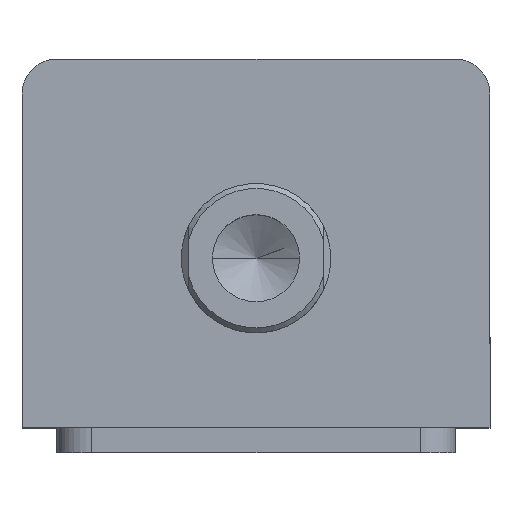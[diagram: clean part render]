
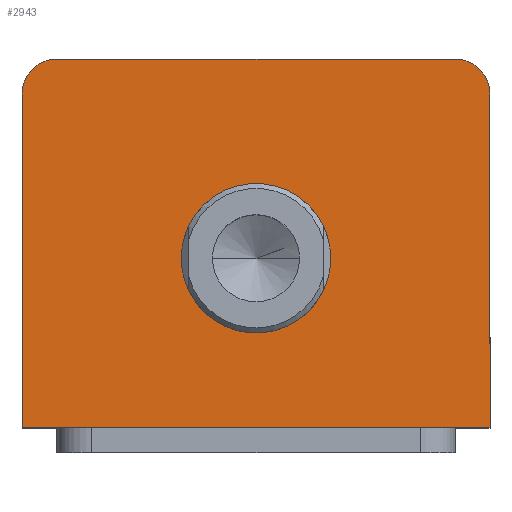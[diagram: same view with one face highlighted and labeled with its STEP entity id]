
A CAD part, top view. The second image highlights one B-rep face of the part: STEP entity #2943.
In plain terms, the highlighted planar face has unit normal (0, 0, 1).
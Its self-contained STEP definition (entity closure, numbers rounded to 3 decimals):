
#11 = VERTEX_POINT ( 'NONE', #1632 ) ;
#143 = ORIENTED_EDGE ( 'NONE', *, *, #1864, .F. ) ;
#189 = ORIENTED_EDGE ( 'NONE', *, *, #2648, .T. ) ;
#190 = ORIENTED_EDGE ( 'NONE', *, *, #1941, .T. ) ;
#191 = ORIENTED_EDGE ( 'NONE', *, *, #2682, .T. ) ;
#192 = ORIENTED_EDGE ( 'NONE', *, *, #1909, .T. ) ;
#194 = ORIENTED_EDGE ( 'NONE', *, *, #1929, .T. ) ;
#375 = VERTEX_POINT ( 'NONE', #1606 ) ;
#382 = VERTEX_POINT ( 'NONE', #1597 ) ;
#444 = EDGE_LOOP ( 'NONE', ( #457, #190, #189, #192, #191, #194 ) ) ;
#447 = EDGE_LOOP ( 'NONE', ( #455, #143 ) ) ;
#455 = ORIENTED_EDGE ( 'NONE', *, *, #2672, .F. ) ;
#457 = ORIENTED_EDGE ( 'NONE', *, *, #1922, .T. ) ;
#816 = VERTEX_POINT ( 'NONE', #1567 ) ;
#837 = VERTEX_POINT ( 'NONE', #1544 ) ;
#1054 = VERTEX_POINT ( 'NONE', #1535 ) ;
#1141 = DIRECTION ( 'NONE',  ( 1., 0., 0. ) ) ;
#1142 = DIRECTION ( 'NONE',  ( 0., 0., 1. ) ) ;
#1143 = CARTESIAN_POINT ( 'NONE',  ( 40., 30., 100. ) ) ;
#1168 = DIRECTION ( 'NONE',  ( -1., 0., 0. ) ) ;
#1169 = CARTESIAN_POINT ( 'NONE',  ( -47., 37., 100. ) ) ;
#1202 = DIRECTION ( 'NONE',  ( 1., 0., 0. ) ) ;
#1212 = CARTESIAN_POINT ( 'NONE',  ( -47., -37., 100. ) ) ;
#1353 = DIRECTION ( 'NONE',  ( 1., 0., 0. ) ) ;
#1354 = DIRECTION ( 'NONE',  ( 0., 0., 1. ) ) ;
#1355 = CARTESIAN_POINT ( 'NONE',  ( 0., -3., 100. ) ) ;
#1535 = CARTESIAN_POINT ( 'NONE',  ( -40., 37., 100. ) ) ;
#1544 = CARTESIAN_POINT ( 'NONE',  ( -47., 30., 100. ) ) ;
#1567 = CARTESIAN_POINT ( 'NONE',  ( 47., -37., 100. ) ) ;
#1597 = CARTESIAN_POINT ( 'NONE',  ( 15., -3., 100. ) ) ;
#1606 = CARTESIAN_POINT ( 'NONE',  ( -47., -37., 100. ) ) ;
#1632 = CARTESIAN_POINT ( 'NONE',  ( 40., 37., 100. ) ) ;
#1649 = CARTESIAN_POINT ( 'NONE',  ( 47., 30., 100. ) ) ;
#1668 = VERTEX_POINT ( 'NONE', #1649 ) ;
#1690 = AXIS2_PLACEMENT_3D ( 'NONE', #2566, #2564, #2562 ) ;
#1698 = AXIS2_PLACEMENT_3D ( 'NONE', #1143, #1142, #1141 ) ;
#1717 = AXIS2_PLACEMENT_3D ( 'NONE', #2546, #2540, #2538 ) ;
#1722 = AXIS2_PLACEMENT_3D ( 'NONE', #2287, #2283, #2282 ) ;
#1754 = AXIS2_PLACEMENT_3D ( 'NONE', #1355, #1354, #1353 ) ;
#1864 = EDGE_CURVE ( 'NONE', #2939, #382, #1988, .T. ) ;
#1909 = EDGE_CURVE ( 'NONE', #375, #816, #2046, .T. ) ;
#1922 = EDGE_CURVE ( 'NONE', #11, #1054, #2074, .T. ) ;
#1929 = EDGE_CURVE ( 'NONE', #1668, #11, #2083, .T. ) ;
#1941 = EDGE_CURVE ( 'NONE', #1054, #837, #2101, .T. ) ;
#1988 = CIRCLE ( 'NONE', #1754, 15. ) ;
#2046 = LINE ( 'NONE', #1212, #2053 ) ;
#2053 = VECTOR ( 'NONE', #1202, 1000. ) ;
#2074 = LINE ( 'NONE', #1169, #2077 ) ;
#2077 = VECTOR ( 'NONE', #1168, 1000. ) ;
#2083 = CIRCLE ( 'NONE', #1698, 7. ) ;
#2101 = CIRCLE ( 'NONE', #1690, 7. ) ;
#2124 = LINE ( 'NONE', #2438, #2127 ) ;
#2127 = VECTOR ( 'NONE', #2437, 1000. ) ;
#2171 = CIRCLE ( 'NONE', #1722, 15. ) ;
#2186 = LINE ( 'NONE', #2604, #2189 ) ;
#2189 = VECTOR ( 'NONE', #2603, 1000. ) ;
#2211 = FACE_BOUND ( 'NONE', #447, .T. ) ;
#2214 = FACE_OUTER_BOUND ( 'NONE', #444, .T. ) ;
#2282 = DIRECTION ( 'NONE',  ( 1., 0., 0. ) ) ;
#2283 = DIRECTION ( 'NONE',  ( 0., 0., 1. ) ) ;
#2287 = CARTESIAN_POINT ( 'NONE',  ( 0., -3., 100. ) ) ;
#2437 = DIRECTION ( 'NONE',  ( 0., -1., 0. ) ) ;
#2438 = CARTESIAN_POINT ( 'NONE',  ( -47., 37., 100. ) ) ;
#2538 = DIRECTION ( 'NONE',  ( 1., 0., 0. ) ) ;
#2540 = DIRECTION ( 'NONE',  ( 0., 0., 1. ) ) ;
#2546 = CARTESIAN_POINT ( 'NONE',  ( 0., 0., 100. ) ) ;
#2547 = PLANE ( 'NONE',  #1717 ) ;
#2562 = DIRECTION ( 'NONE',  ( 1., 0., 0. ) ) ;
#2564 = DIRECTION ( 'NONE',  ( 0., 0., 1. ) ) ;
#2565 = CARTESIAN_POINT ( 'NONE',  ( -15., -3., 100. ) ) ;
#2566 = CARTESIAN_POINT ( 'NONE',  ( -40., 30., 100. ) ) ;
#2603 = DIRECTION ( 'NONE',  ( 0., 1., 0. ) ) ;
#2604 = CARTESIAN_POINT ( 'NONE',  ( 47., 37., 100. ) ) ;
#2648 = EDGE_CURVE ( 'NONE', #837, #375, #2124, .T. ) ;
#2672 = EDGE_CURVE ( 'NONE', #382, #2939, #2171, .T. ) ;
#2682 = EDGE_CURVE ( 'NONE', #816, #1668, #2186, .T. ) ;
#2939 = VERTEX_POINT ( 'NONE', #2565 ) ;
#2943 = ADVANCED_FACE ( 'NONE', ( #2211, #2214 ), #2547, .T. ) ;
